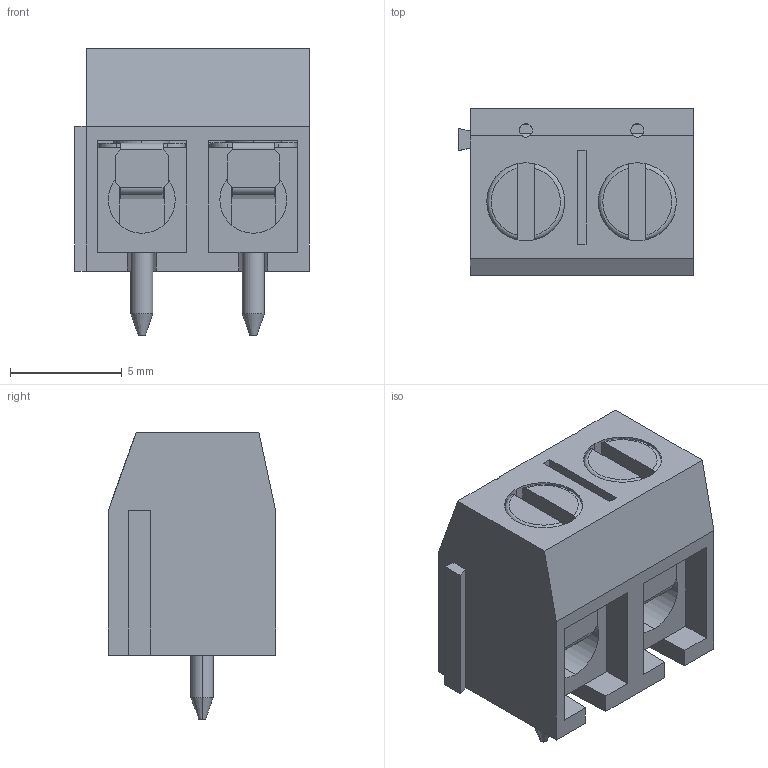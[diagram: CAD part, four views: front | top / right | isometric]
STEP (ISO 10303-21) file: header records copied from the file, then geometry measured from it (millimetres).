
FILE_DESCRIPTION (( 'STEP AP214' ), '1' );
FILE_NAME ('691502710002.STEP', '2024-11-10T07:05:38', ( '' ), ( '' ), 'SwSTEP 2.0', 'SolidWorks 2016', '' );
FILE_SCHEMA (( 'AUTOMOTIVE_DESIGN' ));
Length unit declared in the file: millimetre
Products named in the file (5): 6915027100xx_VIS; 6915027100xx_PIN; 6915027100xx_CAGE; 691502710002
Assembly tree (7 placements, depth 2):
  691502710002
    691502710002
    6915027100xx_CAGE  x2
    6915027100xx_PIN  x2
    6915027100xx_VIS  x2
Bounding box: 10.5 x 7.5 x 12.9 mm (x, y, z)
Volume: 537.6 mm3; surface area: 1355.8 mm2
Topology: 7 solids, 7 shells, 225 faces, 582 edges, 372 vertices
Faces by surface type: plane 133, cylinder 68, cone 16, bspline 8
Entity records: 6038 total; most frequent: CARTESIAN_POINT 978, DIRECTION 759, ORIENTED_EDGE 754, EDGE_CURVE 377, LINE 261, VECTOR 261, AXIS2_PLACEMENT_3D 249, VERTEX_POINT 244
